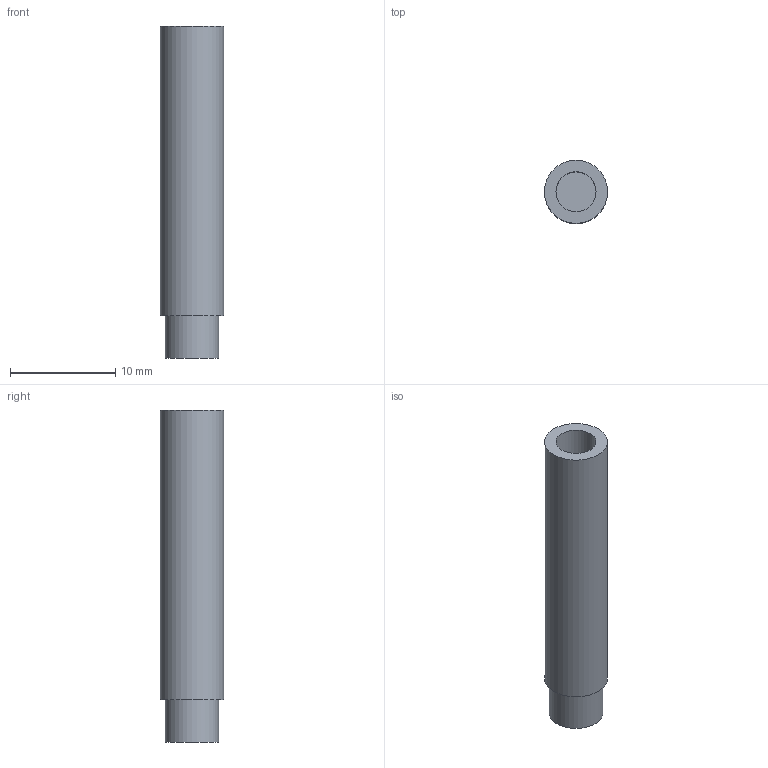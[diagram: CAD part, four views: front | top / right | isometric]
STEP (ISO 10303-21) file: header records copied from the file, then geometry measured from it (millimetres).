
FILE_DESCRIPTION(('FreeCAD Model'),'2;1');
FILE_NAME('Open CASCADE Shape Model','2021-07-31T18:34:35',('Author'),( ''),'Open CASCADE STEP processor 7.4','FreeCAD','Unknown');
FILE_SCHEMA(('AUTOMOTIVE_DESIGN { 1 0 10303 214 1 1 1 1 }'));
Length unit declared in the file: millimetre
Products named in the file (1): KeyExtension
Bounding box: 6 x 6 x 31.5 mm (x, y, z)
Volume: 723.2 mm3; surface area: 782.3 mm2
Topology: 1 solids, 1 shells, 7 faces, 9 edges, 6 vertices
Faces by surface type: plane 4, cylinder 3
Full cylindrical faces by diameter (mm): 3.8 x1, 5.1 x1, 6 x1
Entity records: 288 total; most frequent: DIRECTION 49, CARTESIAN_POINT 41, ORIENTED_EDGE 18, PCURVE 18, DEFINITIONAL_REPRESENTATION 18, LINE 15, VECTOR 15, AXIS2_PLACEMENT_3D 14
